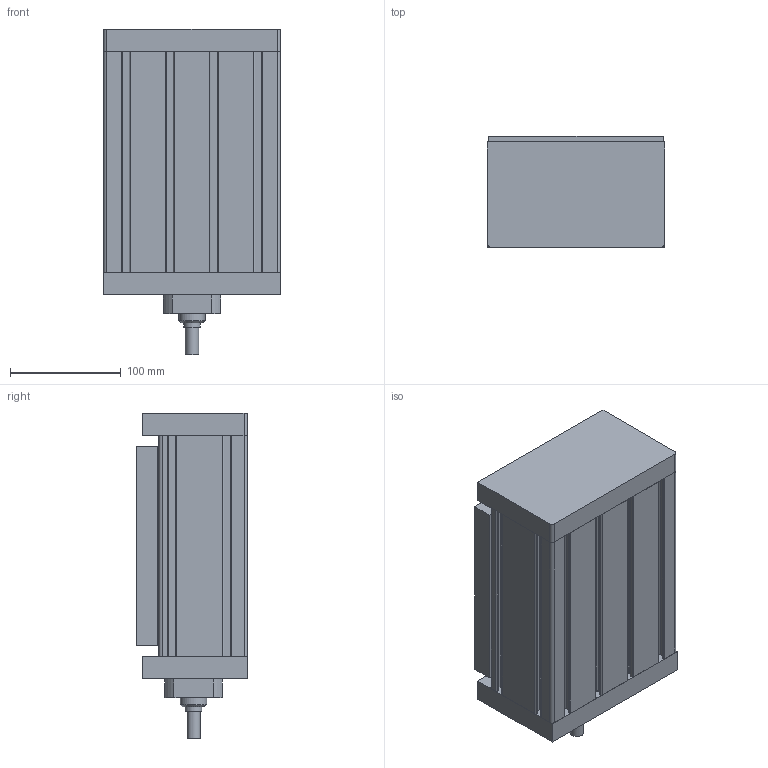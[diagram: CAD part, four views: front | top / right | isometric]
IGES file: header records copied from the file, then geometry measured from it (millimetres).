
Global section: file name: No Iges File Name specified; native system: Autodesk Inventor 2012; preprocessor: AutoDesk Inventor Iges Exporter R2012; author: disegnatore3; date: 20160912.142546; units: millimetre
Bounding box: 160 x 100 x 294.1 mm (x, y, z)
Volume: 3607762.8 mm3; surface area: 320275.8 mm2
Topology: 4 solids, 4 shells, 162 faces, 457 edges, 307 vertices
Faces by surface type: plane 96, cylinder 41, revolution 24, cone 1
Full cylindrical faces by diameter (mm): 12 x1, 15 x1, 24 x1
